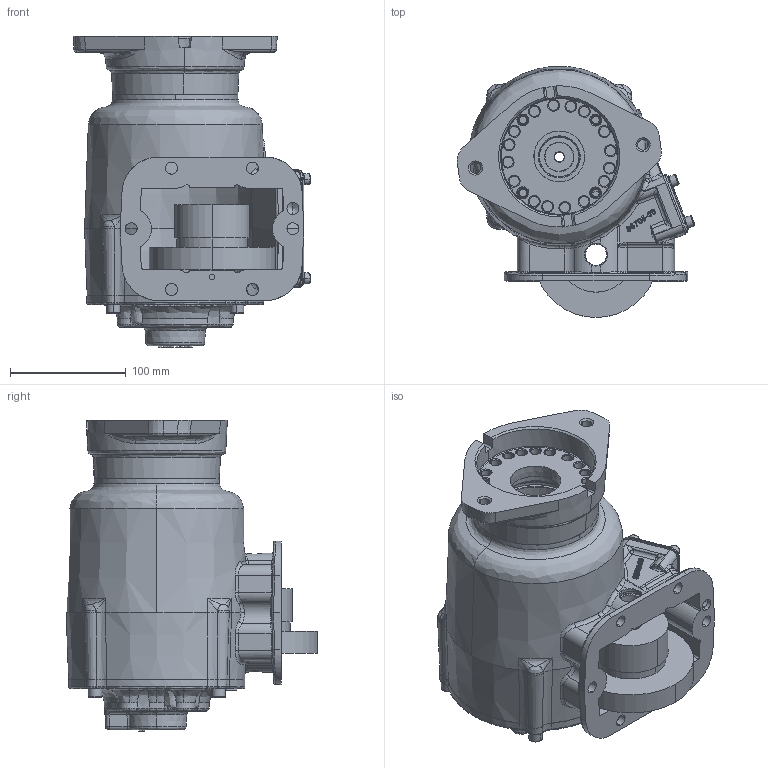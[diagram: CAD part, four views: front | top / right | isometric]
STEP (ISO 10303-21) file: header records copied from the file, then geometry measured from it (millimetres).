
FILE_DESCRIPTION (( 'STEP AP203' ), '1' );
FILE_NAME ('CS6S-XXXXX-X36X.STEP', '2011-11-29T19:14:25', ( 'User' ), ( 'Muncie Power Products, Inc.' ), 'SwSTEP 2.0', 'SolidWorks 2011', '' );
FILE_SCHEMA (( 'CONFIG_CONTROL_DESIGN' ));
Length unit declared in the file: inch
Products named in the file (3): CS6S-XXXXX-X36X; 14T38981; CS6S-XXXXX-X3DX
Assembly tree (2 placements, depth 2):
  CS6S-XXXXX-X36X
    14T38981
    CS6S-XXXXX-X3DX
Bounding box: 205.25 x 216.75 x 268.87 mm (x, y, z)
Volume: 1631286.5 mm3; surface area: 422541.7 mm2
Topology: 13 solids, 13 shells, 2225 faces, 5718 edges, 3581 vertices
Faces by surface type: bspline 977, plane 471, cylinder 426, cone 298, torus 40, sphere 13
Entity records: 146376 total; most frequent: CARTESIAN_POINT 99364, ORIENTED_EDGE 11312, DIRECTION 6839, EDGE_CURVE 5656, VERTEX_POINT 3581, EDGE_LOOP 2465, AXIS2_PLACEMENT_3D 2372, B_SPLINE_CURVE_WITH_KNOTS 2345
